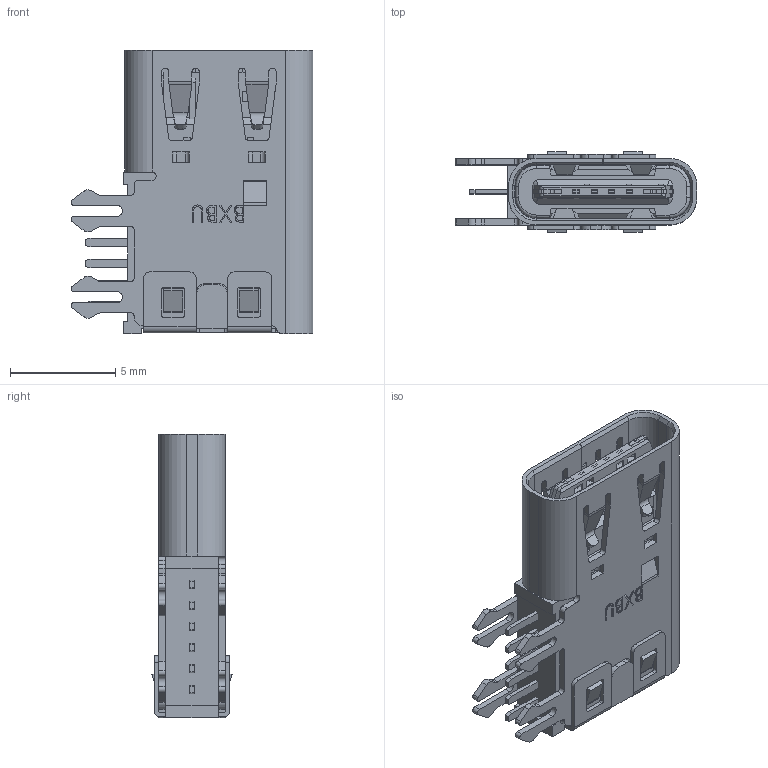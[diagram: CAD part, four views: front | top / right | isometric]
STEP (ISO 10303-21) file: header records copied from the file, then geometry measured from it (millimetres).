
FILE_DESCRIPTION (( 'STEP AP203' ), '1' );
FILE_NAME ('U5074-06PNTY13.5L.STEP', '2026-09-21T03:12:41', ( '' ), ( '' ), 'SwSTEP 2.0', 'SolidWorks 2024', '' );
FILE_SCHEMA (( 'CONFIG_CONTROL_DESIGN' ));
Length unit declared in the file: millimetre
Products named in the file (1): U5074-06PNTY13.5L
Bounding box: 11.5 x 3.83 x 13.5 mm (x, y, z)
Volume: 274 mm3; surface area: 1167.7 mm2
Topology: 12 solids, 12 shells, 1076 faces, 2989 edges, 1940 vertices
Faces by surface type: plane 689, cylinder 326, bspline 45, cone 12, torus 4
Entity records: 36603 total; most frequent: CARTESIAN_POINT 8708, ORIENTED_EDGE 5978, DIRECTION 5561, EDGE_CURVE 2989, VECTOR 2231, LINE 2231, VERTEX_POINT 1940, AXIS2_PLACEMENT_3D 1665
